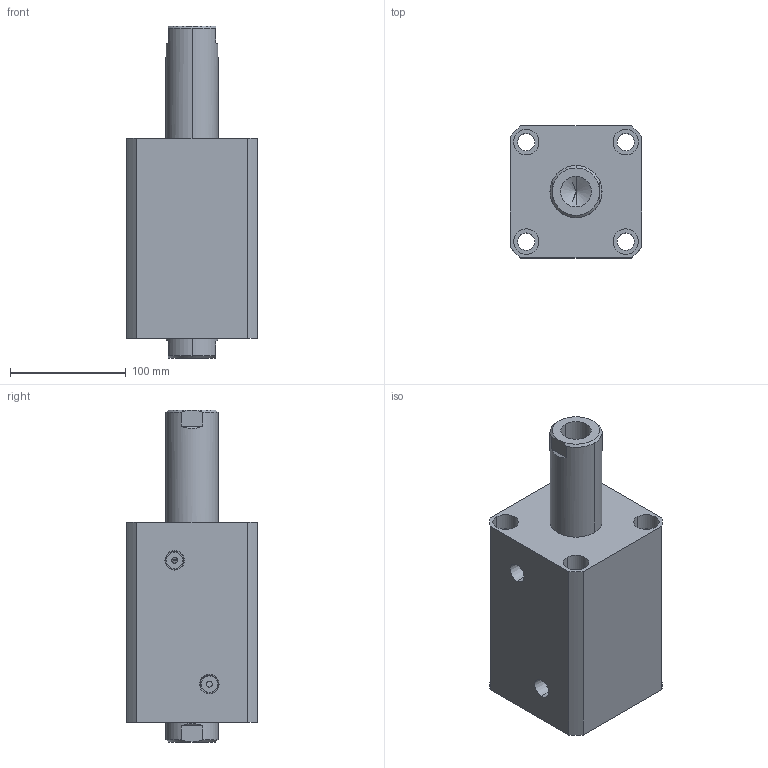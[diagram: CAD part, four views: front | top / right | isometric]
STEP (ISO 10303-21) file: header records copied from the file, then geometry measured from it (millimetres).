
FILE_DESCRIPTION (( 'STEP AP214' ), '1' );
FILE_NAME ('chtb-sw80x80n_asm.STEP', '2018-05-28T00:54:52', ( 'Windows' ), ( 'Microsoft' ), 'SwSTEP 2.0', 'SolidWorks 2015', '' );
FILE_SCHEMA (( 'AUTOMOTIVE_DESIGN' ));
Length unit declared in the file: millimetre
Products named in the file (4): chtb-sw80x80n_asm; CHTB-SW80X80NBT; CHTB-SD80X80NHSG; CHTB-SD80QG
Assembly tree (3 placements, depth 2):
  chtb-sw80x80n_asm
    CHTB-SD80QG
    CHTB-SD80X80NHSG
    CHTB-SW80X80NBT
Bounding box: 114 x 114 x 287 mm (x, y, z)
Volume: 1915860.1 mm3; surface area: 262336.2 mm2
Topology: 3 solids, 3 shells, 208 faces, 550 edges, 365 vertices
Faces by surface type: cylinder 109, plane 42, cone 25, torus 18, bspline 14
Entity records: 15645 total; most frequent: CARTESIAN_POINT 10539, ORIENTED_EDGE 1084, DIRECTION 970, EDGE_CURVE 542, AXIS2_PLACEMENT_3D 407, VERTEX_POINT 365, EDGE_LOOP 249, FACE_OUTER_BOUND 208
